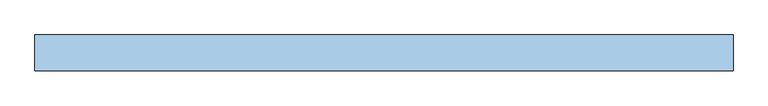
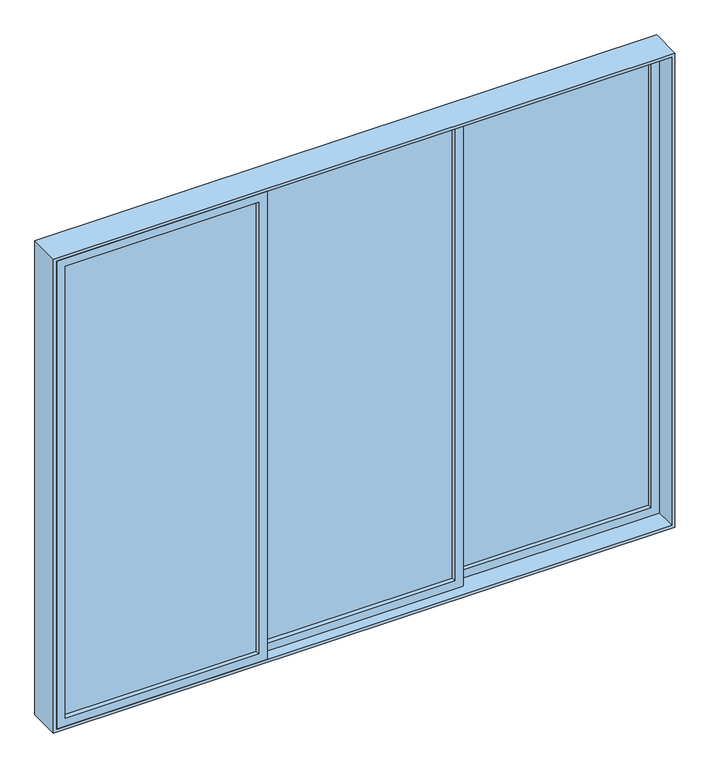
"""IFC4 building model written with IfcOpenShell, lengths in millimetres: window geometry, VENT_ALUM_CORR_3HOJAS_CORRE 1 : V8-VENT_ALUM_CORR_3HOJAS_CORRE 1 - SALA PT IZQ."""

from ifc_helpers import new_model, si_unit, frame, origin, place, context, project, spatial, polyline, outline, extrude, source, transform, mapped, element, save


def window_0b8e7a57(model_context):
    return source(origin(), model_context, "Body", "SweptSolid", [
        extrude(outline(polyline([(-1402.5, -47.0), (-494.1666667, -47.0), (-494.1666667, -53.0), (-1402.5, -53.0), (-1402.5, -47.0)])), frame((0.0, 0.0, 855.0), z_axis=(0.0, 0.0, 1.0), x_axis=(1.0, 0.0, 0.0)), (0.0, 0.0, 1.0), 2240.0),
        extrude(outline(polyline([(815.0, -1442.5), (815.0, -454.1666667), (3135.0, -454.1666667), (3135.0, -1442.5), (815.0, -1442.5)]), holes=[polyline([(3095.0, -1402.5), (3095.0, -494.1666667), (855.0, -494.1666667), (855.0, -1402.5), (3095.0, -1402.5)])]), frame((0.0, -75.0, 0.0), z_axis=(0.0, 1.0, 0.0), x_axis=(0.0, 0.0, 1.0)), (0.0, 0.0, 1.0), 50.0),
        extrude(outline(polyline([(-454.1666667, 3.0), (454.1666667, 3.0), (454.1666667, -3.0), (-454.1666667, -3.0), (-454.1666667, 3.0)])), frame((0.0, 0.0, 855.0), z_axis=(0.0, 0.0, 1.0), x_axis=(1.0, 0.0, 0.0)), (0.0, 0.0, 1.0), 2240.0),
        extrude(outline(polyline([(815.0, -494.1666667), (815.0, 494.1666667), (3135.0, 494.1666667), (3135.0, -494.1666667), (815.0, -494.1666667)]), holes=[polyline([(3095.0, -454.1666667), (3095.0, 454.1666667), (855.0, 454.1666667), (855.0, -454.1666667), (3095.0, -454.1666667)])]), frame((0.0, -25.0, 0.0), z_axis=(0.0, 1.0, 0.0), x_axis=(0.0, 0.0, 1.0)), (0.0, 0.0, 1.0), 50.0),
        extrude(outline(polyline([(494.1666667, 53.0), (1402.5, 53.0), (1402.5, 47.0), (494.1666667, 47.0), (494.1666667, 53.0)])), frame((0.0, 0.0, 855.0), z_axis=(0.0, 0.0, 1.0), x_axis=(1.0, 0.0, 0.0)), (0.0, 0.0, 1.0), 2240.0),
        extrude(outline(polyline([(815.0, 454.1666667), (815.0, 1442.5), (3135.0, 1442.5), (3135.0, 454.1666667), (815.0, 454.1666667)]), holes=[polyline([(3095.0, 494.1666667), (3095.0, 1402.5), (855.0, 1402.5), (855.0, 494.1666667), (3095.0, 494.1666667)])]), frame((0.0, 25.0, 0.0), z_axis=(0.0, 1.0, 0.0), x_axis=(0.0, 0.0, 1.0)), (0.0, 0.0, 1.0), 50.0),
        extrude(outline(polyline([(800.0, -1457.5), (800.0, 1457.5), (3150.0, 1457.5), (3150.0, -1457.5), (800.0, -1457.5)]), holes=[polyline([(3135.0, -1442.5), (3135.0, 1442.5), (815.0, 1442.5), (815.0, -1442.5), (3135.0, -1442.5)])]), frame((0.0, -75.0, 0.0), z_axis=(0.0, 1.0, 0.0), x_axis=(0.0, 0.0, 1.0)), (0.0, 0.0, 1.0), 150.0),
    ])


if __name__ == "__main__":
    model = new_model("IFC4")
    model_context = context("Model", 3, world=origin())
    ifc_project = project(units=[si_unit("LENGTHUNIT", "METRE", prefix="MILLI")], contexts=[model_context])
    site = spatial("IfcSite", under=ifc_project)
    building = spatial("IfcBuilding", under=site)
    placement = place(None, origin())
    window_shape = window_0b8e7a57(model_context)
    element("IfcWindow", 1, ObjectType="VENT_ALUM_CORR_3HOJAS_CORRE 1 : V8-VENT_ALUM_CORR_3HOJAS_CORRE 1 - SALA PT IZQ", at=placement, inside=building, context=model_context, shape_type="MappedRepresentation", body=[
        mapped(window_shape, transform((0.0, 0.0, 0.0), x_axis=(1.0, 0.0, 0.0), y_axis=(0.0, 1.0, 0.0), z_axis=(0.0, 0.0, 1.0))),
    ])
    save(model, "model.ifc")
